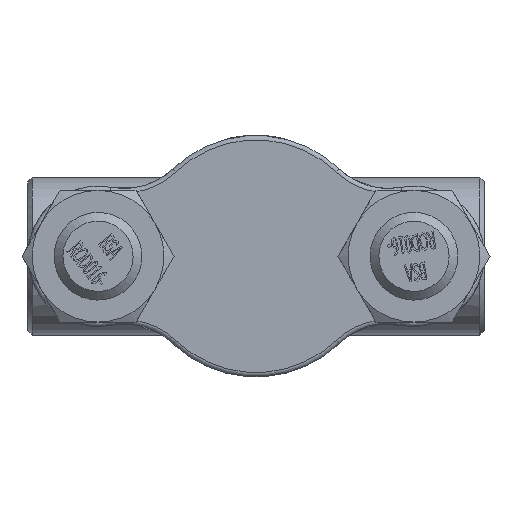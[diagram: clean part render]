
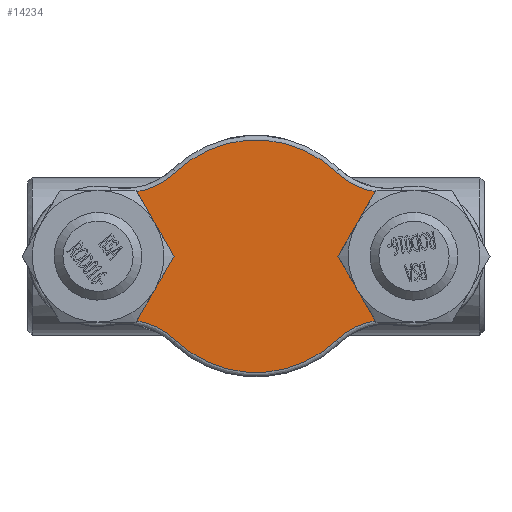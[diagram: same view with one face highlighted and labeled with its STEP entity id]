
A CAD part, front view. The second image highlights one B-rep face of the part: STEP entity #14234.
In plain terms, the highlighted planar face has unit normal (0, -1, 0) as drawn and (0, 0, -1) by its records, which use the part's own axes.
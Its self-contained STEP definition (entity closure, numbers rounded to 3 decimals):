
#3721=PLANE('',#15159);
#4109=FACE_BOUND('',#5040,.T.);
#4110=FACE_BOUND('',#5041,.T.);
#4203=FACE_OUTER_BOUND('',#5039,.T.);
#5039=EDGE_LOOP('',(#9813,#9814,#9815,#9816,#9817,#9818,#9819,#9820));
#5040=EDGE_LOOP('',(#9821));
#5041=EDGE_LOOP('',(#9822));
#5967=CIRCLE('',#15158,11.5);
#5968=CIRCLE('',#15160,15.);
#5969=CIRCLE('',#15161,17.);
#5970=CIRCLE('',#15162,26.5);
#5971=CIRCLE('',#15163,17.);
#5972=CIRCLE('',#15164,15.);
#5973=CIRCLE('',#15165,17.);
#5974=CIRCLE('',#15166,26.5);
#5975=CIRCLE('',#15167,17.);
#5976=CIRCLE('',#15168,11.5);
#6153=VERTEX_POINT('',#18496);
#6154=VERTEX_POINT('',#18499);
#6155=VERTEX_POINT('',#18500);
#6156=VERTEX_POINT('',#18502);
#6157=VERTEX_POINT('',#18504);
#6158=VERTEX_POINT('',#18506);
#6159=VERTEX_POINT('',#18508);
#6160=VERTEX_POINT('',#18510);
#6161=VERTEX_POINT('',#18512);
#6162=VERTEX_POINT('',#18515);
#7611=EDGE_CURVE('',#6153,#6153,#5967,.T.);
#7612=EDGE_CURVE('',#6154,#6155,#5968,.T.);
#7613=EDGE_CURVE('',#6156,#6154,#5969,.T.);
#7614=EDGE_CURVE('',#6157,#6156,#5970,.T.);
#7615=EDGE_CURVE('',#6158,#6157,#5971,.T.);
#7616=EDGE_CURVE('',#6159,#6158,#5972,.T.);
#7617=EDGE_CURVE('',#6160,#6159,#5973,.T.);
#7618=EDGE_CURVE('',#6161,#6160,#5974,.T.);
#7619=EDGE_CURVE('',#6155,#6161,#5975,.T.);
#7620=EDGE_CURVE('',#6162,#6162,#5976,.T.);
#9813=ORIENTED_EDGE('',*,*,#7612,.F.);
#9814=ORIENTED_EDGE('',*,*,#7613,.F.);
#9815=ORIENTED_EDGE('',*,*,#7614,.F.);
#9816=ORIENTED_EDGE('',*,*,#7615,.F.);
#9817=ORIENTED_EDGE('',*,*,#7616,.F.);
#9818=ORIENTED_EDGE('',*,*,#7617,.F.);
#9819=ORIENTED_EDGE('',*,*,#7618,.F.);
#9820=ORIENTED_EDGE('',*,*,#7619,.F.);
#9821=ORIENTED_EDGE('',*,*,#7620,.F.);
#9822=ORIENTED_EDGE('',*,*,#7611,.F.);
#14234=ADVANCED_FACE('',(#4203,#4109,#4110),#3721,.F.);
#15158=AXIS2_PLACEMENT_3D('',#18497,#15868,#15869);
#15159=AXIS2_PLACEMENT_3D('',#18498,#15870,#15871);
#15160=AXIS2_PLACEMENT_3D('',#18501,#15872,#15873);
#15161=AXIS2_PLACEMENT_3D('',#18503,#15874,#15875);
#15162=AXIS2_PLACEMENT_3D('',#18505,#15876,#15877);
#15163=AXIS2_PLACEMENT_3D('',#18507,#15878,#15879);
#15164=AXIS2_PLACEMENT_3D('',#18509,#15880,#15881);
#15165=AXIS2_PLACEMENT_3D('',#18511,#15882,#15883);
#15166=AXIS2_PLACEMENT_3D('',#18513,#15884,#15885);
#15167=AXIS2_PLACEMENT_3D('',#18514,#15886,#15887);
#15168=AXIS2_PLACEMENT_3D('',#18516,#15888,#15889);
#15868=DIRECTION('center_axis',(0.,0.,-1.));
#15869=DIRECTION('ref_axis',(1.,0.,0.));
#15870=DIRECTION('center_axis',(0.,0.,1.));
#15871=DIRECTION('ref_axis',(1.,0.,0.));
#15872=DIRECTION('center_axis',(0.,0.,1.));
#15873=DIRECTION('ref_axis',(-1.,0.,0.));
#15874=DIRECTION('center_axis',(0.,0.,-1.));
#15875=DIRECTION('ref_axis',(0.284,-0.959,0.));
#15876=DIRECTION('center_axis',(0.,0.,1.));
#15877=DIRECTION('ref_axis',(0.,1.,0.));
#15878=DIRECTION('center_axis',(0.,0.,-1.));
#15879=DIRECTION('ref_axis',(-0.284,-0.959,0.));
#15880=DIRECTION('center_axis',(0.,0.,1.));
#15881=DIRECTION('ref_axis',(1.,0.,0.));
#15882=DIRECTION('center_axis',(0.,0.,-1.));
#15883=DIRECTION('ref_axis',(-0.284,0.959,0.));
#15884=DIRECTION('center_axis',(0.,0.,1.));
#15885=DIRECTION('ref_axis',(0.,-1.,0.));
#15886=DIRECTION('center_axis',(0.,0.,-1.));
#15887=DIRECTION('ref_axis',(0.284,0.959,0.));
#15888=DIRECTION('center_axis',(0.,0.,-1.));
#15889=DIRECTION('ref_axis',(1.,0.,0.));
#18496=CARTESIAN_POINT('',(24.5,0.,0.));
#18497=CARTESIAN_POINT('Origin',(36.,0.,0.));
#18498=CARTESIAN_POINT('Origin',(0.,0.,
0.));
#18499=CARTESIAN_POINT('',(-33.215,14.739,0.));
#18500=CARTESIAN_POINT('',(-33.215,-14.739,0.));
#18501=CARTESIAN_POINT('Origin',(-36.,0.,0.));
#18502=CARTESIAN_POINT('',(-18.312,19.155,0.));
#18503=CARTESIAN_POINT('Origin',(-30.059,31.444,0.));
#18504=CARTESIAN_POINT('',(18.312,19.155,0.));
#18505=CARTESIAN_POINT('Origin',(0.,0.,0.));
#18506=CARTESIAN_POINT('',(33.215,14.739,0.));
#18507=CARTESIAN_POINT('Origin',(30.059,31.444,0.));
#18508=CARTESIAN_POINT('',(33.215,-14.739,0.));
#18509=CARTESIAN_POINT('Origin',(36.,0.,0.));
#18510=CARTESIAN_POINT('',(18.312,-19.155,0.));
#18511=CARTESIAN_POINT('Origin',(30.059,-31.444,0.));
#18512=CARTESIAN_POINT('',(-18.312,-19.155,0.));
#18513=CARTESIAN_POINT('Origin',(0.,0.,0.));
#18514=CARTESIAN_POINT('Origin',(-30.059,-31.444,0.));
#18515=CARTESIAN_POINT('',(-47.5,0.,0.));
#18516=CARTESIAN_POINT('Origin',(-36.,0.,0.));
